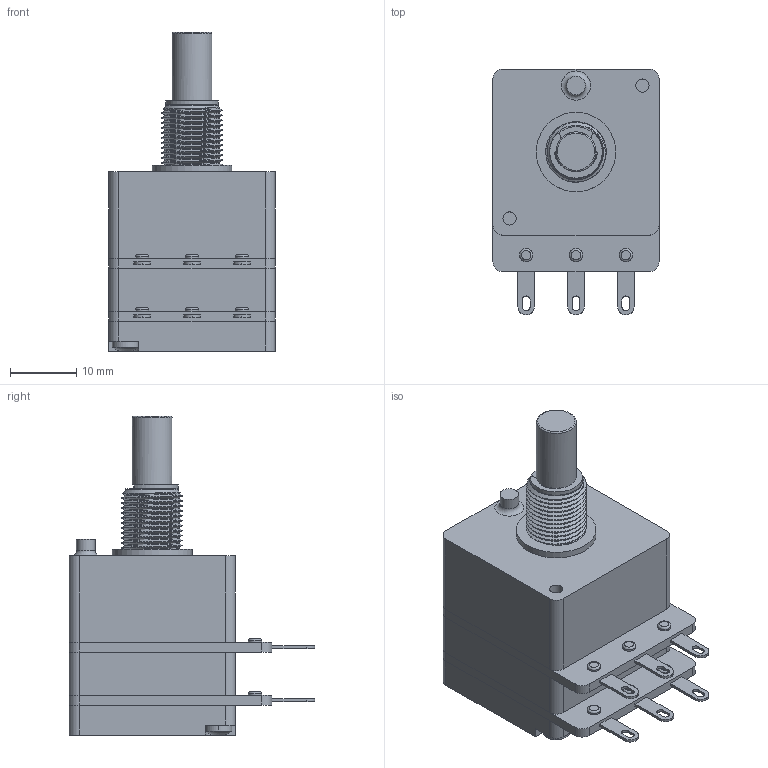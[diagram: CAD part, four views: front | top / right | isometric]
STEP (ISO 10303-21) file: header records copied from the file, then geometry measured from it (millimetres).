
FILE_DESCRIPTION(('FreeCAD Model'),'2;1');
FILE_NAME('Open CASCADE Shape Model','2024-02-26T16:05:18',(''),(''), 'Open CASCADE STEP processor 7.6','FreeCAD','Unknown');
FILE_SCHEMA(('AUTOMOTIVE_DESIGN { 1 0 10303 214 1 1 1 1 }'));
Length unit declared in the file: millimetre
Products named in the file (1): 2cp25xx-r20
Bounding box: 25 x 37 x 48.07 mm (x, y, z)
Volume: 18074.4 mm3; surface area: 6030.9 mm2
Topology: 1 solids, 11 shells, 323 faces, 755 edges, 468 vertices
Faces by surface type: plane 154, cylinder 107, bspline 38, cone 12, torus 8, sphere 2, revolution 2
Full cylindrical faces by diameter (mm): 1.9 x4, 2 x16, 2.2 x6, 2.8 x1, 4.5 x2, 5.4 x1, 6 x1, 6.05 x1, 8 x1, 9.09 x11, 12 x1
Entity records: 28757 total; most frequent: CARTESIAN_POINT 13508, DIRECTION 2557, ORIENTED_EDGE 1504, PCURVE 1504, DEFINITIONAL_REPRESENTATION 1504, LINE 1191, VECTOR 1191, EDGE_CURVE 752
